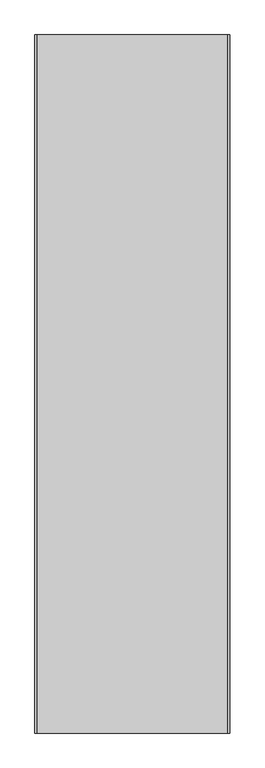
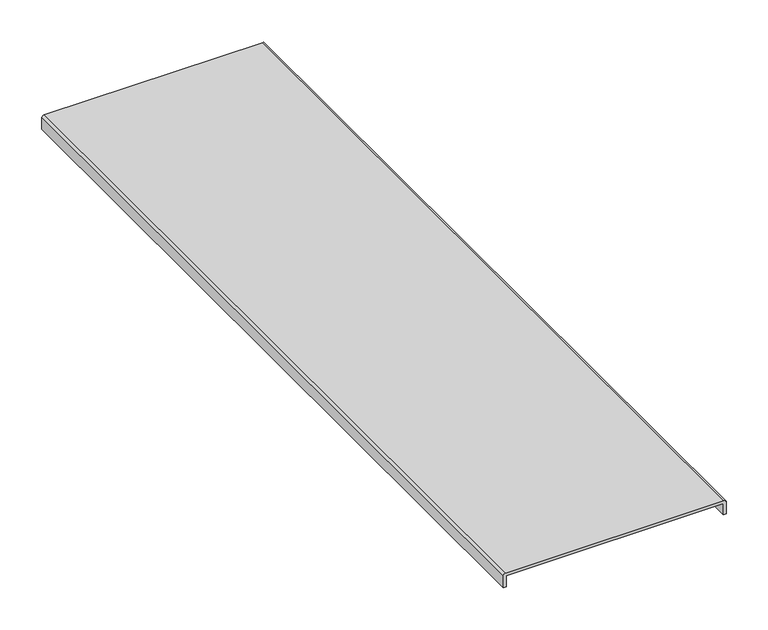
"""IFC4 building model written with IfcOpenShell, lengths in millimetres: proxy geometry, Cable_Tray_Cover_TWT_Basorcanal : Basorcanal TWT 300."""

from ifc_helpers import new_model, si_unit, point, frame, frame_2d, origin, place, context, project, spatial, polyline, circle_curve, trimmed, segment, composite_curve, outline, extrude, source, transform, mapped, element, save


def generic_models_94ff4f47(model_context):
    return source(origin(), model_context, "Body", "SweptSolid", [
        extrude(outline(composite_curve([segment(trimmed(circle_curve(frame_2d((-0.5, -149.5)), 0.5), [point((-0.5, -150.0))], [point((0.0, -149.5))], True, "CARTESIAN"), True, "CONTINUOUS"), segment(polyline([(0.0, -149.5), (0.0, 149.5)]), True, "CONTINUOUS"), segment(trimmed(circle_curve(frame_2d((-0.5, 149.5)), 0.5), [point((0.0, 149.5))], [point((-0.5, 150.0))], True, "CARTESIAN"), True, "CONTINUOUS"), segment(polyline([(-0.5, 150.0), (-16.0, 150.0), (-16.0, 154.0), (0.9268922, 154.0)]), True, "CONTINUOUS"), segment(trimmed(circle_curve(frame_2d((0.9268922, 150.9268922)), 3.0731078), [point((0.9268922, 154.0))], [point((4.0, 150.9268922))], False, "CARTESIAN"), True, "CONTINUOUS"), segment(polyline([(4.0, 150.9268922), (4.0, -150.6770801)]), True, "CONTINUOUS"), segment(trimmed(circle_curve(frame_2d((0.6770801, -150.6770801)), 3.3229199), [point((4.0, -150.6770801))], [point((0.6770801, -154.0))], False, "CARTESIAN"), True, "CONTINUOUS"), segment(polyline([(0.6770801, -154.0), (-16.0, -154.0), (-16.0, -150.0), (-0.5, -150.0)]), True, "CONTINUOUS")], self_intersect=False)), frame((0.0, 0.0, 0.0), z_axis=(0.0, 1.0, 0.0), x_axis=(0.0, 0.0, 1.0)), (0.0, 0.0, 1.0), 1103.4),
    ])


if __name__ == "__main__":
    model = new_model("IFC4")
    model_context = context("Model", 3, world=origin())
    ifc_project = project(units=[si_unit("LENGTHUNIT", "METRE", prefix="MILLI")], contexts=[model_context])
    site = spatial("IfcSite", under=ifc_project)
    building = spatial("IfcBuilding", under=site)
    placement = place(None, origin())
    generic_models_shape = generic_models_94ff4f47(model_context)
    element("IfcBuildingElementProxy", 1, Name="Cable_Tray_Cover_TWT_Basorcanal : Basorcanal TWT 300", ObjectType="Cable_Tray_Cover_TWT_Basorcanal : Basorcanal TWT 300", at=placement, inside=building, context=model_context, shape_type="MappedRepresentation", body=[
        mapped(generic_models_shape, transform((0.0, 0.0, 0.0), x_axis=(1.0, 0.0, 0.0), y_axis=(0.0, 1.0, 0.0), z_axis=(0.0, 0.0, 1.0))),
    ])
    save(model, "model.ifc")
